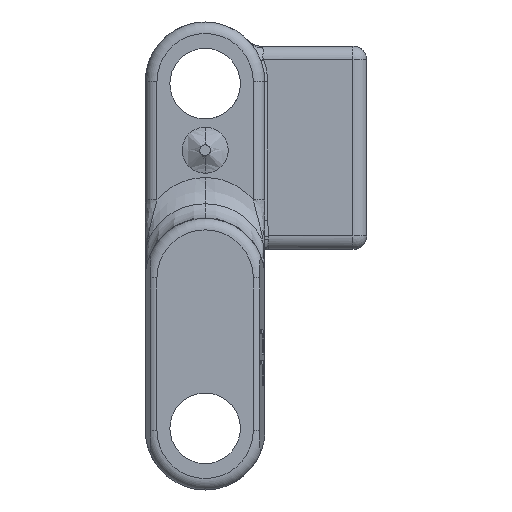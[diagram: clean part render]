
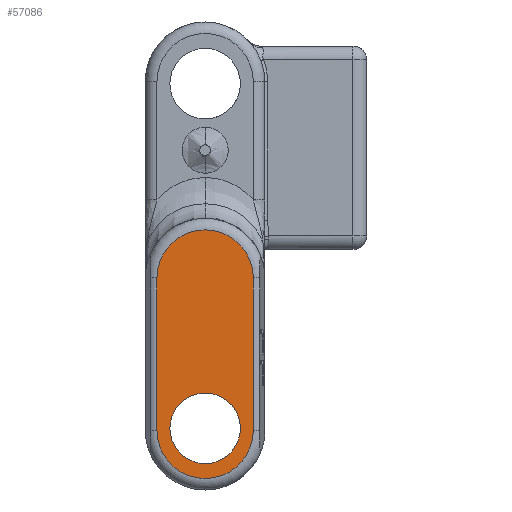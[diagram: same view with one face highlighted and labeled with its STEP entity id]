
A CAD part, left-side view. The second image highlights one B-rep face of the part: STEP entity #57086.
In plain terms, the highlighted planar face has unit normal (-1, 0, 0).
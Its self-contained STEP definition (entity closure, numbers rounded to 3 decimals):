
#18693=DIRECTION('',(0.,0.,1.));
#18694=VECTOR('',#18693,11.23);
#18695=CARTESIAN_POINT('',(-41.27,-3.55,-12.85));
#18696=LINE('',#18695,#18694);
#18697=CARTESIAN_POINT('',(-41.27,0.,-12.85));
#18698=DIRECTION('',(-1.,0.,0.));
#18699=DIRECTION('',(0.,1.,0.));
#18700=AXIS2_PLACEMENT_3D('',#18697,#18698,#18699);
#18702=DIRECTION('',(0.,0.,-1.));
#18703=VECTOR('',#18702,11.23);
#18704=CARTESIAN_POINT('',(-41.27,3.55,-1.62));
#18705=LINE('',#18704,#18703);
#18706=CARTESIAN_POINT('',(-41.27,0.,-1.62));
#18707=DIRECTION('',(-1.,0.,0.));
#18708=DIRECTION('',(0.,-1.,0.));
#18709=AXIS2_PLACEMENT_3D('',#18706,#18707,#18708);
#18711=CARTESIAN_POINT('',(-41.27,0.,-12.7));
#18712=DIRECTION('',(-1.,0.,0.));
#18713=DIRECTION('',(0.,-1.,0.));
#18714=AXIS2_PLACEMENT_3D('',#18711,#18712,#18713);
#18716=CARTESIAN_POINT('',(-41.27,0.,-12.7));
#18717=DIRECTION('',(-1.,0.,0.));
#18718=DIRECTION('',(0.,1.,0.));
#18719=AXIS2_PLACEMENT_3D('',#18716,#18717,#18718);
#22393=CARTESIAN_POINT('',(-41.27,-3.55,-12.85));
#22394=CARTESIAN_POINT('',(-41.27,-3.55,-1.62));
#22395=VERTEX_POINT('',#22393);
#22396=VERTEX_POINT('',#22394);
#22397=CARTESIAN_POINT('',(-41.27,3.55,-12.85));
#22398=VERTEX_POINT('',#22397);
#22399=CARTESIAN_POINT('',(-41.27,3.55,-1.62));
#22400=VERTEX_POINT('',#22399);
#22694=CARTESIAN_POINT('',(-41.27,-2.6,-12.7));
#22695=CARTESIAN_POINT('',(-41.27,2.6,-12.7));
#22696=VERTEX_POINT('',#22694);
#22697=VERTEX_POINT('',#22695);
#57070=CARTESIAN_POINT('',(-41.27,6.227,-25.));
#57071=DIRECTION('',(-1.,0.,0.));
#57072=DIRECTION('',(0.,0.,1.));
#57073=AXIS2_PLACEMENT_3D('',#57070,#57071,#57072);
#57074=PLANE('',#57073);
#57076=ORIENTED_EDGE('',*,*,#57075,.F.);
#57077=ORIENTED_EDGE('',*,*,#56530,.F.);
#57078=ORIENTED_EDGE('',*,*,#57064,.F.);
#57079=ORIENTED_EDGE('',*,*,#57052,.F.);
#57080=EDGE_LOOP('',(#57076,#57077,#57078,#57079));
#57081=FACE_OUTER_BOUND('',#57080,.F.);
#57082=ORIENTED_EDGE('',*,*,#26174,.T.);
#57083=ORIENTED_EDGE('',*,*,#26397,.T.);
#57084=EDGE_LOOP('',(#57082,#57083));
#57085=FACE_BOUND('',#57084,.F.);
#57086=ADVANCED_FACE('',(#57081,#57085),#57074,.T.);
#18701=CIRCLE('',#18700,3.55);
#18710=CIRCLE('',#18709,3.55);
#18715=CIRCLE('',#18714,2.6);
#18720=CIRCLE('',#18719,2.6);
#26174=EDGE_CURVE('',#22696,#22697,#18715,.T.);
#26397=EDGE_CURVE('',#22697,#22696,#18720,.T.);
#56530=EDGE_CURVE('',#22398,#22395,#18701,.T.);
#57052=EDGE_CURVE('',#22396,#22400,#18710,.T.);
#57064=EDGE_CURVE('',#22400,#22398,#18705,.T.);
#57075=EDGE_CURVE('',#22395,#22396,#18696,.T.);
